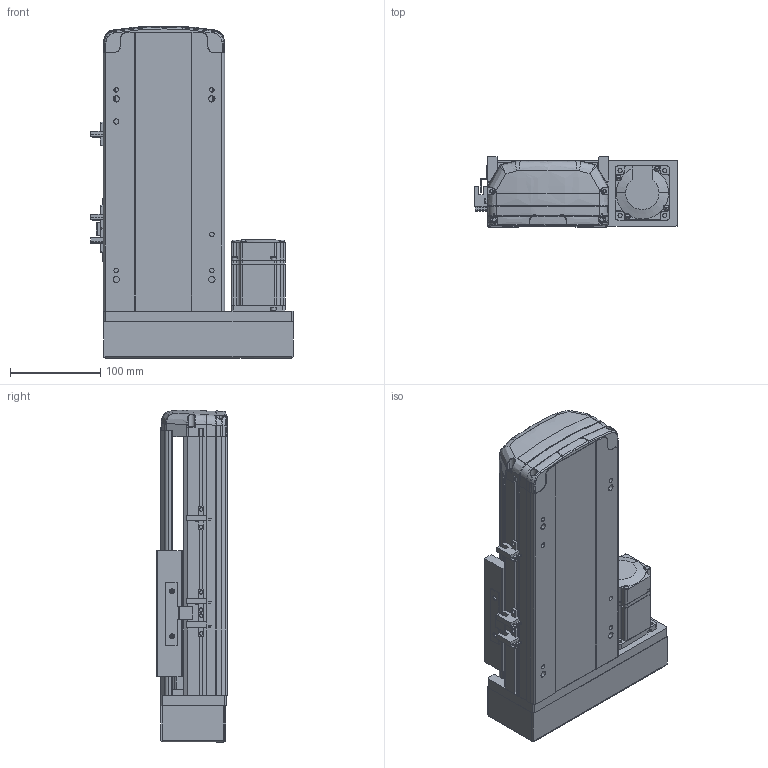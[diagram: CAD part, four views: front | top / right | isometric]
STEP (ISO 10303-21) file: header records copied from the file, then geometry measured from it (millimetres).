
FILE_DESCRIPTION (( 'STEP AP214' ), '1' );
FILE_NAME ('RTH14-XX-100-R-M20-C4.STEP', '2025-10-24T09:50:18', ( 'Microsoft' ), ( 'Microsoft' ), 'SwSTEP 2.0', 'SolidWorks 2018', '' );
FILE_SCHEMA (( 'AUTOMOTIVE_DESIGN' ));
Length unit declared in the file: millimetre
Products named in the file (10): N_RTH14-GY-001P^RTH14-XX-XX-R-M20-C4; N_RTH14-R-004-SFSR16賑釱^RTH14-XX-XX-R-M20-C4; N_MSMD022P1AA_200W^RTH14-XX-XX-R-M20-C4; N_RTH14-M-007P奻裔^RTH14-XX-XX-R-M20-C4; N_RTH13-L-012感应片（外置）^RTH14-XX-XX-R-M20-C4; N_RTH13-L-008-P20 萇儂啣酘蛌殏^RTH14-XX-XX-R-M20-C4; N_OMRON EE-SX672 传感器^RTH14-XX-XX-R-M20-C4; N_RTH13-L-018 裔赽^RTH14-XX-XX-R-M20-C4; N_RTH14-M-011P菁釱^RTH14-XX-XX-R-M20-C4; RTH14-XX-100-R-M20-C4
Assembly tree (11 placements, depth 2):
  RTH14-XX-100-R-M20-C4
    N_RTH14-M-011P菁釱^RTH14-XX-XX-R-M20-C4
    N_RTH14-M-007P奻裔^RTH14-XX-XX-R-M20-C4
    N_MSMD022P1AA_200W^RTH14-XX-XX-R-M20-C4
    N_RTH13-L-008-P20 萇儂啣酘蛌殏^RTH14-XX-XX-R-M20-C4
    N_RTH13-L-018 裔赽^RTH14-XX-XX-R-M20-C4
    N_RTH13-L-012感应片（外置）^RTH14-XX-XX-R-M20-C4
    N_OMRON EE-SX672 传感器^RTH14-XX-XX-R-M20-C4  x3
    N_RTH14-R-004-SFSR16賑釱^RTH14-XX-XX-R-M20-C4
    N_RTH14-GY-001P^RTH14-XX-XX-R-M20-C4
Bounding box: 224 x 78.03 x 367.73 mm (x, y, z)
Volume: 2049362.9 mm3; surface area: 512077.6 mm2
Topology: 10 solids, 12 shells, 1827 faces, 5104 edges, 3345 vertices
Faces by surface type: plane 983, cylinder 449, bspline 346, cone 45, torus 4
Entity records: 55479 total; most frequent: CARTESIAN_POINT 22691, ORIENTED_EDGE 7265, DIRECTION 5738, EDGE_CURVE 3638, VERTEX_POINT 2381, LINE 2112, VECTOR 2112, AXIS2_PLACEMENT_3D 1813
